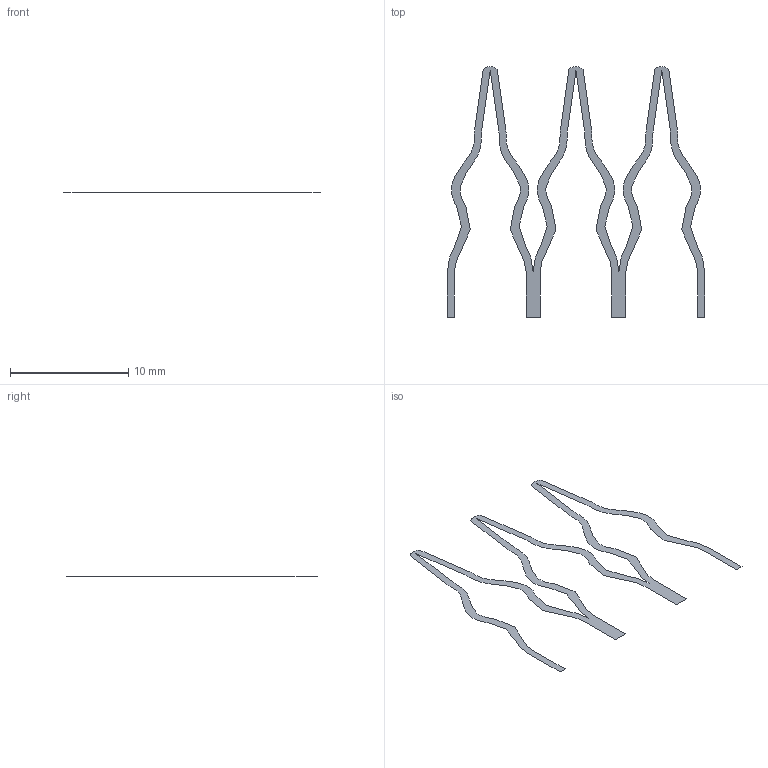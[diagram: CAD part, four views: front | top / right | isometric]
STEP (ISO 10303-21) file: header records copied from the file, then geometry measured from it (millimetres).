
FILE_DESCRIPTION(/* description */ (''),/* implementation_level */ '2;1');
FILE_NAME(/* name */ 'test',/* time_stamp */ '2020-03-21T17:51:29-06:00',/* author */ (''),/* organization */ (''),/* preprocessor_version */ 'ST-DEVELOPER v15',/* originating_system */ '',/* authorisation */ '');
FILE_SCHEMA (('AUTOMOTIVE_DESIGN'));
Length unit declared in the file: millimetre
Products named in the file (1): Document
Bounding box: 21.78 x 21.22 x 0 mm (x, y, z)
Surface area: 85 mm2 (no closed solid volume)
Topology: 0 solids, 1 shells, 1 faces, 165 edges, 165 vertices
Faces by surface type: plane 1
Entity records: 1274 total; most frequent: CARTESIAN_POINT 739, ORIENTED_EDGE 165, EDGE_CURVE 165, VERTEX_POINT 165, DIRECTION 5, AXIS2_PLACEMENT_3D 3, SHAPE_REPRESENTATION_RELATIONSHIP 1, COLOUR_RGB 1
